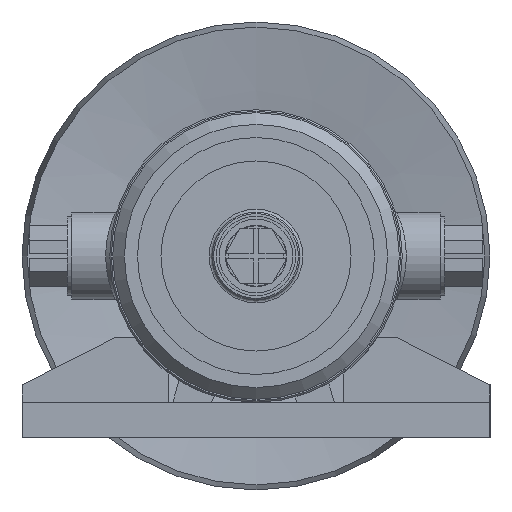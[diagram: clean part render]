
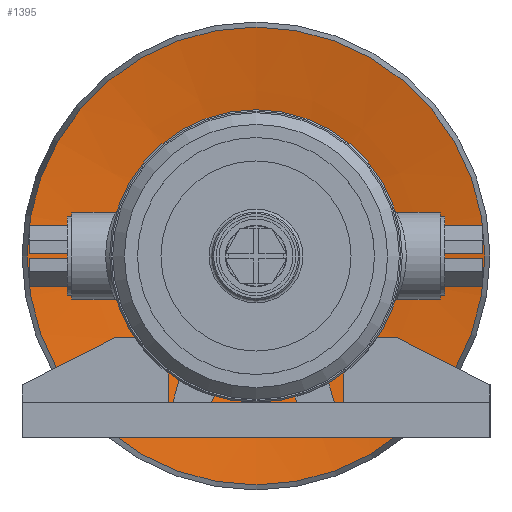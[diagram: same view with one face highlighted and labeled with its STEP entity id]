
A CAD part, left-side view. The second image highlights one B-rep face of the part: STEP entity #1395.
In plain terms, the highlighted conical face has half-angle 80 degrees and reference radius 78.263 mm.
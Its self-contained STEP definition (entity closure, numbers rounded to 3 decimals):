
#1395 = ADVANCED_FACE( '', ( #2526, #2527 ), #2528, .F. );
#2526 = FACE_BOUND( '', #4559, .T. );
#2527 = FACE_OUTER_BOUND( '', #4560, .T. );
#2528 = CONICAL_SURFACE( '', #4561, 78.264, 1.396 );
#4559 = EDGE_LOOP( '', ( #6408 ) );
#4560 = EDGE_LOOP( '', ( #6409 ) );
#4561 = AXIS2_PLACEMENT_3D( '', #6410, #6411, #6412 );
#6408 = ORIENTED_EDGE( '', *, *, #8049, .F. );
#6409 = ORIENTED_EDGE( '', *, *, #8392, .T. );
#6410 = CARTESIAN_POINT( '', ( -17.629, 0., 0. ) );
#6411 = DIRECTION( '', ( -1., 0., 0. ) );
#6412 = DIRECTION( '', ( 0., 0., 1. ) );
#8049 = EDGE_CURVE( '', #9014, #9014, #9015, .T. );
#8392 = EDGE_CURVE( '', #9571, #9571, #9572, .T. );
#9014 = VERTEX_POINT( '', #10259 );
#9015 = CIRCLE( '', #10260, 35. );
#9571 = VERTEX_POINT( '', #12110 );
#9572 = CIRCLE( '', #12111, 78.264 );
#10259 = CARTESIAN_POINT( '', ( -10., 0., 35. ) );
#10260 = AXIS2_PLACEMENT_3D( '', #13737, #13738, #13739 );
#12110 = CARTESIAN_POINT( '', ( -17.629, 0., 78.264 ) );
#12111 = AXIS2_PLACEMENT_3D( '', #14187, #14188, #14189 );
#13737 = CARTESIAN_POINT( '', ( -10., 0., 0. ) );
#13738 = DIRECTION( '', ( -1., 0., 0. ) );
#13739 = DIRECTION( '', ( 0., 0., 1. ) );
#14187 = CARTESIAN_POINT( '', ( -17.629, 0., 0. ) );
#14188 = DIRECTION( '', ( -1., 0., 0. ) );
#14189 = DIRECTION( '', ( 0., 0., 1. ) );
